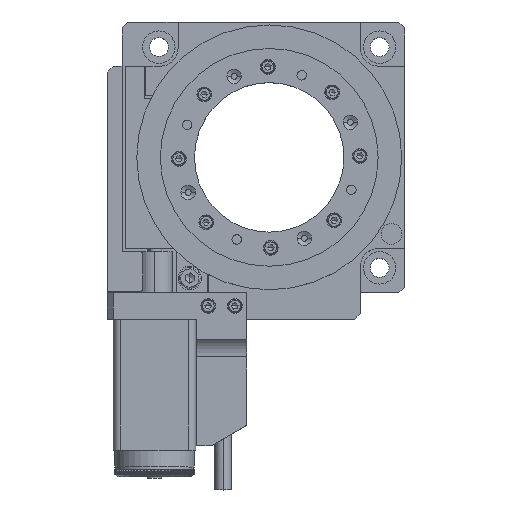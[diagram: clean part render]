
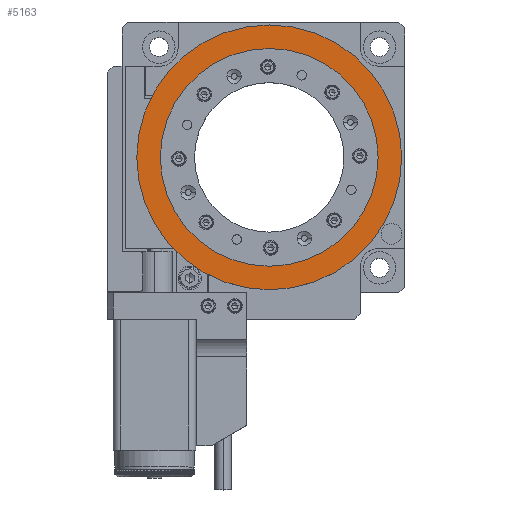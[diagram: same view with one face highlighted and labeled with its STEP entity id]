
A CAD part, top view. The second image highlights one B-rep face of the part: STEP entity #5163.
In plain terms, the highlighted planar face has unit normal (0, 0, 1).
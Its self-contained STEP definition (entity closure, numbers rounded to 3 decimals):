
#5144 = ORIENTED_EDGE ( 'NONE', *, *, #37897, .T. ) ;
#5163 = ADVANCED_FACE ( 'NONE', ( #16085, #16084 ), #16083, .T. ) ;
#5164 = EDGE_LOOP ( 'NONE', ( #5165, #5167 ) ) ;
#5165 = ORIENTED_EDGE ( 'NONE', *, *, #5166, .F. ) ;
#5166 = EDGE_CURVE ( 'NONE', #36382, #36432, #16140, .T. ) ;
#5167 = ORIENTED_EDGE ( 'NONE', *, *, #36529, .F. ) ;
#5168 = EDGE_LOOP ( 'NONE', ( #5169, #5144 ) ) ;
#5169 = ORIENTED_EDGE ( 'NONE', *, *, #39917, .T. ) ;
#16080 = DIRECTION ( 'NONE',  ( 0., 0., 1. ) ) ;
#16081 = CARTESIAN_POINT ( 'NONE',  ( 50., 46., 32. ) ) ;
#16082 = AXIS2_PLACEMENT_3D ( 'NONE', #16081, #16080, #16141 ) ;
#16083 = PLANE ( 'NONE',  #16082 ) ;
#16084 = FACE_OUTER_BOUND ( 'NONE', #5168, .T. ) ;
#16085 = FACE_BOUND ( 'NONE', #5164, .T. ) ;
#16136 = DIRECTION ( 'NONE',  ( -1., 0., 0. ) ) ;
#16137 = DIRECTION ( 'NONE',  ( 0., 0., 1. ) ) ;
#16138 = CARTESIAN_POINT ( 'NONE',  ( 50., 46., 32. ) ) ;
#16139 = AXIS2_PLACEMENT_3D ( 'NONE', #16138, #16137, #16136 ) ;
#16140 = CIRCLE ( 'NONE', #16139, 37. ) ;
#16141 = DIRECTION ( 'NONE',  ( 0., -1., 0. ) ) ;
#36382 = VERTEX_POINT ( 'NONE', #36802 ) ;
#36432 = VERTEX_POINT ( 'NONE', #36962 ) ;
#36529 = EDGE_CURVE ( 'NONE', #36432, #36382, #37273, .T. ) ;
#36802 = CARTESIAN_POINT ( 'NONE',  ( 13., 46., 32. ) ) ;
#36962 = CARTESIAN_POINT ( 'NONE',  ( 87., 46., 32. ) ) ;
#37266 = DIRECTION ( 'NONE',  ( -1., 0., 0. ) ) ;
#37268 = DIRECTION ( 'NONE',  ( 0., 0., 1. ) ) ;
#37270 = CARTESIAN_POINT ( 'NONE',  ( 50., 46., 32. ) ) ;
#37271 = AXIS2_PLACEMENT_3D ( 'NONE', #37270, #37268, #37266 ) ;
#37273 = CIRCLE ( 'NONE', #37271, 37. ) ;
#37897 = EDGE_CURVE ( 'NONE', #37900, #37902, #41213, .T. ) ;
#37900 = VERTEX_POINT ( 'NONE', #41207 ) ;
#37902 = VERTEX_POINT ( 'NONE', #41204 ) ;
#39917 = EDGE_CURVE ( 'NONE', #37902, #37900, #44985, .T. ) ;
#41204 = CARTESIAN_POINT ( 'NONE',  ( 5., 46., 32. ) ) ;
#41207 = CARTESIAN_POINT ( 'NONE',  ( 95., 46., 32. ) ) ;
#41209 = DIRECTION ( 'NONE',  ( -1., 0., 0. ) ) ;
#41210 = DIRECTION ( 'NONE',  ( 0., 0., 1. ) ) ;
#41212 = AXIS2_PLACEMENT_3D ( 'NONE', #41227, #41210, #41209 ) ;
#41213 = CIRCLE ( 'NONE', #41212, 45. ) ;
#41227 = CARTESIAN_POINT ( 'NONE',  ( 50., 46., 32. ) ) ;
#44977 = DIRECTION ( 'NONE',  ( -1., 0., 0. ) ) ;
#44978 = DIRECTION ( 'NONE',  ( 0., 0., 1. ) ) ;
#44979 = CARTESIAN_POINT ( 'NONE',  ( 50., 46., 32. ) ) ;
#44980 = AXIS2_PLACEMENT_3D ( 'NONE', #44979, #44978, #44977 ) ;
#44985 = CIRCLE ( 'NONE', #44980, 45. ) ;
